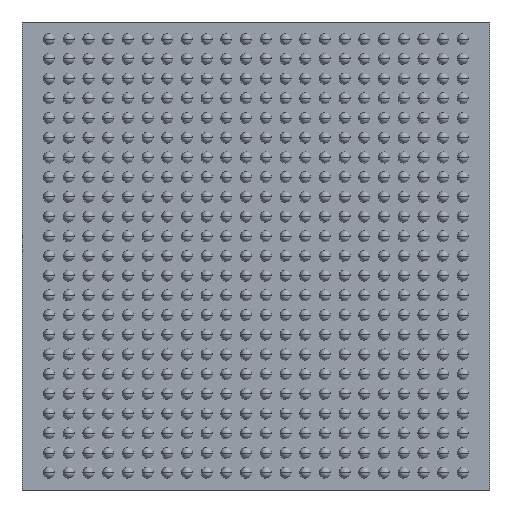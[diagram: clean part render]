
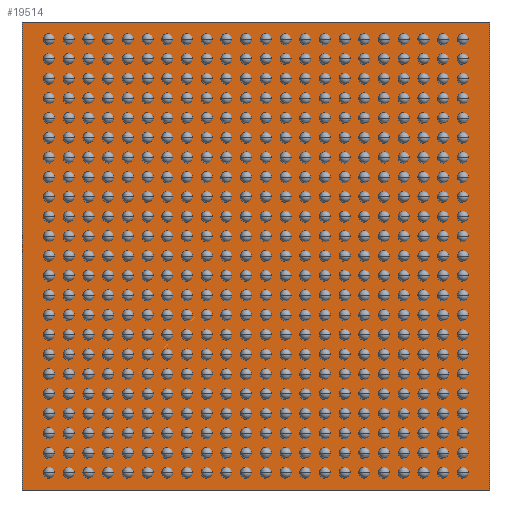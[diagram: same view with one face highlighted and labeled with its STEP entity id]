
A CAD part, front view. The second image highlights one B-rep face of the part: STEP entity #19514.
In plain terms, the highlighted planar face has unit normal (0, -1, 0).
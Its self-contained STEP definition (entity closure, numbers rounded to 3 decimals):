
#2121 = CARTESIAN_POINT ( 'NONE',  ( -9.5, -0.594, -9.5 ) ) ;
#2731 = EDGE_CURVE ( 'NONE', #39993, #8452, #13425, .T. ) ;
#2935 = DIRECTION ( 'NONE',  ( 0., 1., 0. ) ) ;
#4083 = ORIENTED_EDGE ( 'NONE', *, *, #26037, .F. ) ;
#4895 = VECTOR ( 'NONE', #36690, 1000. ) ;
#7558 = AXIS2_PLACEMENT_3D ( 'NONE', #12740, #2935, #12323 ) ;
#8452 = VERTEX_POINT ( 'NONE', #25197 ) ;
#9953 = VERTEX_POINT ( 'NONE', #19989 ) ;
#10430 = VECTOR ( 'NONE', #42982, 1000. ) ;
#10549 = DIRECTION ( 'NONE',  ( 0., 0., -1. ) ) ;
#12323 = DIRECTION ( 'NONE',  ( 0., 0., 1. ) ) ;
#12585 = LINE ( 'NONE', #2121, #24925 ) ;
#12740 = CARTESIAN_POINT ( 'NONE',  ( 0., -0.594, 0. ) ) ;
#12809 = EDGE_LOOP ( 'NONE', ( #36693, #4083, #30689, #42749 ) ) ;
#13185 = LINE ( 'NONE', #26676, #10430 ) ;
#13425 = LINE ( 'NONE', #23437, #4895 ) ;
#15456 = DIRECTION ( 'NONE',  ( 0., 0., 1. ) ) ;
#15620 = FACE_OUTER_BOUND ( 'NONE', #12809, .T. ) ;
#16085 = VERTEX_POINT ( 'NONE', #38480 ) ;
#19034 = EDGE_CURVE ( 'NONE', #16085, #39993, #12585, .T. ) ;
#19514 = ADVANCED_FACE ( 'NONE', ( #15620 ), #28882, .F. ) ;
#19989 = CARTESIAN_POINT ( 'NONE',  ( 9.5, -0.594, -9.5 ) ) ;
#23437 = CARTESIAN_POINT ( 'NONE',  ( -9.5, -0.594, 9.5 ) ) ;
#24925 = VECTOR ( 'NONE', #15456, 1000. ) ;
#25197 = CARTESIAN_POINT ( 'NONE',  ( 9.5, -0.594, 9.5 ) ) ;
#25552 = CARTESIAN_POINT ( 'NONE',  ( -9.5, -0.594, 9.5 ) ) ;
#26037 = EDGE_CURVE ( 'NONE', #9953, #16085, #13185, .T. ) ;
#26676 = CARTESIAN_POINT ( 'NONE',  ( 9.5, -0.594, -9.5 ) ) ;
#28882 = PLANE ( 'NONE',  #7558 ) ;
#30689 = ORIENTED_EDGE ( 'NONE', *, *, #35580, .F. ) ;
#33641 = VECTOR ( 'NONE', #10549, 1000. ) ;
#34098 = LINE ( 'NONE', #40822, #33641 ) ;
#35580 = EDGE_CURVE ( 'NONE', #8452, #9953, #34098, .T. ) ;
#36690 = DIRECTION ( 'NONE',  ( 1., 0., 0. ) ) ;
#36693 = ORIENTED_EDGE ( 'NONE', *, *, #19034, .F. ) ;
#38480 = CARTESIAN_POINT ( 'NONE',  ( -9.5, -0.594, -9.5 ) ) ;
#39993 = VERTEX_POINT ( 'NONE', #25552 ) ;
#40822 = CARTESIAN_POINT ( 'NONE',  ( 9.5, -0.594, 9.5 ) ) ;
#42749 = ORIENTED_EDGE ( 'NONE', *, *, #2731, .F. ) ;
#42982 = DIRECTION ( 'NONE',  ( -1., 0., 0. ) ) ;
